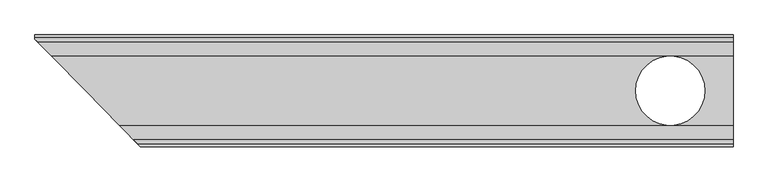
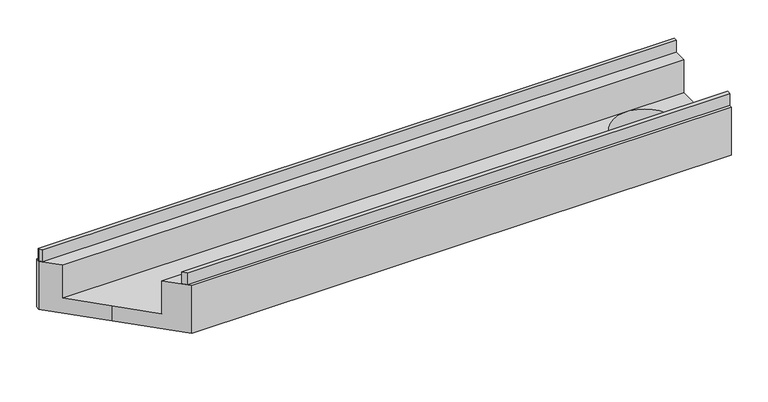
"""IFC4 building model written with IfcOpenShell, lengths in millimetres: sanitary terminal geometry, PF_ST_Slabdrain_H100SK_channels_USA_ACO : H100SK-10 Constant Depth Channel with Ductile iron edge rail."""

import ifcopenshell
import ifcopenshell.guid

model = None  # the IFC model being written
_history = None  # IfcOwnerHistory: only IFC2X3 demands one
_inside = {}  # id of a spatial element -> (the spatial element, [elements in it])
_under = {}  # id of a project, library or spatial element -> (it, [spatial elements below it])
_declared = {}  # id of a project -> (the project, [libraries it declares])
_typed = {}  # id of a type object -> (the type object, [elements of that type])
_made_of = {}  # id of a material, layer set ... -> (it, [elements and type objects made of it])


def new_model(schema):
    """Start an empty IFC model of exactly this schema.

    Asked for "IFC4X3", IfcOpenShell would pick the latest addendum, in which some entities
    have other attributes; the version numbers below select the first issue.
    IFC2X3 requires an IfcOwnerHistory on every rooted entity: one is made here for all.
    """
    global model, _history
    if schema == "IFC4X3":
        model = ifcopenshell.file(schema_version=(4, 3, 0, 0))
    else:
        model = ifcopenshell.file(schema=schema)
    _inside.clear()
    _under.clear()
    _declared.clear()
    _typed.clear()
    _made_of.clear()
    _history = None
    if model.schema == "IFC2X3":
        org = make("IfcOrganization", Name="unknown")
        user = make(
            "IfcPersonAndOrganization",
            ThePerson=make("IfcPerson", FamilyName="unknown"),
            TheOrganization=org,
        )
        app = make(
            "IfcApplication",
            ApplicationDeveloper=org,
            Version="unknown",
            ApplicationFullName="unknown",
            ApplicationIdentifier="unknown",
        )
        _history = make(
            "IfcOwnerHistory",
            OwningUser=user,
            OwningApplication=app,
            ChangeAction="ADDED",
            CreationDate=0,
        )
    return model


def make(cls, **values):
    """One entity of the class cls with the attributes given. An attribute that is None is left unset."""
    return model.create_entity(
        cls, **{name: value for name, value in values.items() if value is not None}
    )


def rooted(cls, **values):
    """An entity with a GlobalId (a new one), such as an element, a storey or a relation."""
    return make(cls, GlobalId=ifcopenshell.guid.new(), OwnerHistory=_history, **values)


def si_unit(unit_type, name, prefix=None):
    """IfcSIUnit, for example si_unit("LENGTHUNIT", "METRE", prefix="MILLI")."""
    return make("IfcSIUnit", UnitType=unit_type, Prefix=prefix, Name=name)


def assignment(units):
    """IfcUnitAssignment: the units of a project."""
    return None if units is None else make("IfcUnitAssignment", Units=units)


def point(xyz):
    """IfcCartesianPoint."""
    return None if xyz is None else make("IfcCartesianPoint", Coordinates=xyz)


def direction(xyz):
    """IfcDirection."""
    return None if xyz is None else make("IfcDirection", DirectionRatios=xyz)


def frame(location, z_axis=None, x_axis=None):
    """IfcAxis2Placement3D, a coordinate frame: its origin and axes. An axis left out is left unset."""
    return make(
        "IfcAxis2Placement3D",
        Location=point(location),
        Axis=direction(z_axis),
        RefDirection=direction(x_axis),
    )


def origin():
    """The frame at (0, 0, 0) with its axes left unset."""
    return frame((0.0, 0.0, 0.0))


def place(relative_to, where):
    """IfcLocalPlacement: puts the frame where relative to a parent placement (None: the world)."""
    return make(
        "IfcLocalPlacement", PlacementRelTo=relative_to, RelativePlacement=where
    )


def context(
    kind, dimensions, precision=None, world=None, true_north=None, identifier=None
):
    """IfcGeometricRepresentationContext, for example the 3D "Model" context."""
    return make(
        "IfcGeometricRepresentationContext",
        ContextIdentifier=identifier,
        ContextType=kind,
        CoordinateSpaceDimension=dimensions,
        Precision=precision,
        WorldCoordinateSystem=world,
        TrueNorth=true_north,
    )


def project(units=None, contexts=None):
    """IfcProject with its units and contexts."""
    return rooted(
        "IfcProject",
        Name="project",
        RepresentationContexts=contexts,
        UnitsInContext=assignment(units),
    )


def spatial(cls, under=None, at=None, **own):
    """A site, building, storey or space (cls), placed at a placement, below another one or the project."""
    s = rooted(cls, ObjectPlacement=at, **own)
    if under is not None:
        _under.setdefault(under.id(), (under, []))[1].append(s)
    return s


def polyline(points):
    """IfcPolyline through the points."""
    return make("IfcPolyline", Points=[point(p) for p in points])


def circle_curve(where, radius):
    """IfcCircle in the frame where."""
    return make("IfcCircle", Position=where, Radius=radius)


def outline(outer, holes=None, kind="AREA"):
    """IfcArbitraryClosedProfileDef: a profile drawn as a closed curve; with holes, ...WithVoids."""
    if holes is None:
        return make("IfcArbitraryClosedProfileDef", ProfileType=kind, OuterCurve=outer)
    return make(
        "IfcArbitraryProfileDefWithVoids",
        ProfileType=kind,
        OuterCurve=outer,
        InnerCurves=holes,
    )


def extrude(swept, where, along, depth):
    """IfcExtrudedAreaSolid: the profile swept, set in the frame where, extruded along a direction by depth."""
    return make(
        "IfcExtrudedAreaSolid",
        SweptArea=swept,
        Position=where,
        ExtrudedDirection=direction(along),
        Depth=depth,
    )


def shape(context_of_items, identifier, shape_type, items):
    """IfcShapeRepresentation: the items that make up one representation, for example the "Body"."""
    return make(
        "IfcShapeRepresentation",
        ContextOfItems=context_of_items,
        RepresentationIdentifier=identifier,
        RepresentationType=shape_type,
        Items=items,
    )


def source(mapping_origin, context_of_items, identifier, shape_type, items):
    """IfcRepresentationMap: a shape defined once, which mapped items show again and again."""
    return make(
        "IfcRepresentationMap",
        MappingOrigin=mapping_origin,
        MappedRepresentation=shape(context_of_items, identifier, shape_type, items),
    )


def transform(
    local_origin,
    x_axis=None,
    y_axis=None,
    z_axis=None,
    scale=None,
    scale2=None,
    scale3=None,
    uniform=True,
):
    """IfcCartesianTransformationOperator3D, or its non-uniform kind. x_axis, y_axis, z_axis: its Axis1, 2, 3."""
    if uniform:
        return make(
            "IfcCartesianTransformationOperator3D",
            Axis1=direction(x_axis),
            Axis2=direction(y_axis),
            LocalOrigin=point(local_origin),
            Scale=scale,
            Axis3=direction(z_axis),
        )
    return make(
        "IfcCartesianTransformationOperator3DnonUniform",
        Axis1=direction(x_axis),
        Axis2=direction(y_axis),
        LocalOrigin=point(local_origin),
        Scale=scale,
        Axis3=direction(z_axis),
        Scale2=scale2,
        Scale3=scale3,
    )


def mapped(mapping_source, mapping_target):
    """IfcMappedItem: shows the shape of a source again, moved by a transform."""
    return make(
        "IfcMappedItem", MappingSource=mapping_source, MappingTarget=mapping_target
    )


def made_of(thing, what):
    """Note that an element or type object is made of a material, layer set ...; save() writes the relation."""
    if what is not None:
        _made_of.setdefault(what.id(), (what, []))[1].append(thing)
    return thing


def element(
    cls,
    number,
    at=None,
    inside=None,
    cuts=None,
    type_object=None,
    material=None,
    context=None,
    identifier="Body",
    shape_type=None,
    held_by="IfcProductDefinitionShape",
    body=None,
    shapes=None,
    **own,
):
    """One element of the class cls, such as IfcWall. Its Tag is "e" and its number.

    at: its placement. inside: the storey or other place that contains it. cuts: it is an
    opening in that element (IfcRelVoidsElement). A single representation is given by context,
    identifier, shape_type and body (its items); several are given by shapes. held_by: the class
    of the entity that holds the representations. save() writes the other relations.
    """
    e = rooted(cls, Tag="e%d" % number, ObjectPlacement=at, **own)
    if body is not None:
        shapes = [shape(context, identifier, shape_type, body)]
    if shapes is not None:
        e.Representation = make(held_by, Representations=shapes)
    if inside is not None:
        _inside.setdefault(inside.id(), (inside, []))[1].append(e)
    if cuts is not None:
        rooted(
            "IfcRelVoidsElement", RelatingBuildingElement=cuts, RelatedOpeningElement=e
        )
    if type_object is not None:
        _typed.setdefault(type_object.id(), (type_object, []))[1].append(e)
    return made_of(e, material)


def aggregate(whole, parts):
    """IfcRelAggregates: a whole, such as a stair, and the parts it consists of."""
    return rooted("IfcRelAggregates", RelatingObject=whole, RelatedObjects=parts)


def save(model, path):
    """Write the relations noted so far, then the file.

    IfcRelAggregates (storeys below a building ...), IfcRelContainedInSpatialStructure (elements
    in a storey), IfcRelDefinesByType, IfcRelAssociatesMaterial and IfcRelDeclares: one each for
    every whole, place, type object, material and project.
    """
    for whole, parts in _under.values():
        aggregate(whole, parts)
    for where, things in _inside.values():
        rooted(
            "IfcRelContainedInSpatialStructure",
            RelatedElements=things,
            RelatingStructure=where,
        )
    for kind, things in _typed.values():
        rooted("IfcRelDefinesByType", RelatedObjects=things, RelatingType=kind)
    for what, things in _made_of.values():
        rooted("IfcRelAssociatesMaterial", RelatedObjects=things, RelatingMaterial=what)
    for by, libraries in _declared.values():
        rooted("IfcRelDeclares", RelatingContext=by, RelatedDefinitions=libraries)
    model.write(path)


def plane_surface(at):
    """IfcPlane: the flat surface through the origin of the frame at, square to its z axis."""
    return make("IfcPlane", Position=at)


def revolved_surface(curve, axis_point, axis_direction):
    """IfcSurfaceOfRevolution: the curve turned about the line through axis_point along axis_direction."""
    return make(
        "IfcSurfaceOfRevolution",
        SweptCurve=make("IfcArbitraryOpenProfileDef", ProfileType="CURVE", Curve=curve),
        AxisPosition=make("IfcAxis1Placement", Location=point(axis_point), Axis=direction(axis_direction)),
    )


def advanced_brep(points, edges, surfaces, faces):
    """IfcAdvancedBrep: a solid bounded by faces that lie on surfaces and meet in shared edges.

    An edge is (start, end): straight between two places in points (the first is 0);
    or (start, end, curve); or (start, end, curve, False) where it runs against its curve.
    A face is (place in surfaces, loops), or (place, loops, False) where it looks against
    its surface's normal. A loop lists edges by number (the first is 1), with a minus sign
    where the edge is run from its end to its start. The first loop is the outer one.
    """
    corners = [point(p) for p in points]
    vertices = [make("IfcVertexPoint", VertexGeometry=c) for c in corners]
    made = []
    for start, end, *more in edges:
        made.append(
            make(
                "IfcEdgeCurve",
                EdgeStart=vertices[start],
                EdgeEnd=vertices[end],
                EdgeGeometry=more[0] if more else make("IfcPolyline", Points=[corners[start], corners[end]]),
                SameSense=more[1] if len(more) > 1 else True,
            )
        )
    hull = []
    for where, loops, *sense in faces:
        bounds = []
        for j, loop in enumerate(loops):
            ring = [make("IfcOrientedEdge", EdgeElement=made[abs(k) - 1], Orientation=k > 0) for k in loop]
            bounds.append(
                make(
                    "IfcFaceOuterBound" if j == 0 else "IfcFaceBound",
                    Bound=make("IfcEdgeLoop", EdgeList=ring),
                    Orientation=True,
                )
            )
        hull.append(make("IfcAdvancedFace", Bounds=bounds, FaceSurface=surfaces[where], SameSense=sense[0] if sense else True))
    return make("IfcAdvancedBrep", Outer=make("IfcClosedShell", CfsFaces=hull))


def sanitary_terminal_edf25b3c(model_context):
    return source(origin(), model_context, "Body", "SolidModel", [
        advanced_brep(
        [(-605.6176554, 80.0, -20.0), (-605.6176554, 50.0, -20.0), (-605.6176554, 50.0, -75.0), (-605.6176554, -50.0, -75.0), (-605.6176554, -50.0, -20.0), (-605.6176554, -80.0, -20.0), (-605.6176554, -80.0, -100.0), (-605.6176554, 80.0, -100.0), (-1605.6176554, 80.0, -20.0), (-1605.6176554, 80.0, -100.0), (-1605.6176554, 73.8943556, -100.0), (-1605.6176554, 73.8943556, -20.0), (-1582.1358062, 49.9990523, -20.0), (-1483.8678487, -49.9991477, -20.0), (-1454.3860933, -80.0, -20.0), (-1454.3860933, -80.0, -100.0), (-1533.0018743, 0.0, -100.0), (-745.1176554, 0.0, -100.0), (-646.1176554, 0.0, -100.0), (-1582.1358062, 49.9990523, -75.0), (-1533.0018743, 0.0, -75.0), (-1483.8678487, -49.9991477, -75.0), (-646.1176554, 0.0, -75.0), (-745.1176554, 0.0, -75.0)],
        [
            (0, 1),
            (1, 2),
            (2, 3),
            (3, 4),
            (4, 5),
            (5, 6),
            (6, 7),
            (7, 0),
            (8, 9),
            (9, 10),
            (10, 11),
            (11, 8),
            (0, 8),
            (11, 12),
            (12, 1),
            (4, 13),
            (13, 14),
            (14, 5),
            (14, 15),
            (15, 6),
            (15, 16),
            (16, 10),
            (9, 7),
            (17, 18, circle_curve(frame((-695.6176554, 0.0, -100.0), z_axis=(0.0, 0.0, 1.0), x_axis=(1.0, 0.0, 0.0)), 49.5)),
            (18, 17, circle_curve(frame((-695.6176554, 0.0, -100.0), z_axis=(0.0, 0.0, 1.0), x_axis=(1.0, 0.0, 0.0)), 49.5)),
            (12, 19),
            (19, 2),
            (19, 20),
            (20, 21),
            (21, 3),
            (22, 23, circle_curve(frame((-695.6176554, 0.0, -75.0), z_axis=(0.0, 0.0, -1.0), x_axis=(1.0, 0.0, 0.0)), 49.5)),
            (23, 22, circle_curve(frame((-695.6176554, 0.0, -75.0), z_axis=(0.0, 0.0, -1.0), x_axis=(1.0, 0.0, 0.0)), 49.5)),
            (21, 13),
            (22, 18),
            (17, 23),
            (20, 16),
        ],
        [
            plane_surface(frame((-605.6176554, 0.0, -53.75), z_axis=(1.0, 0.0, 0.0), x_axis=(0.0, -1.0, 0.0))),
            plane_surface(frame((-1605.6176554, 0.0, -53.75), z_axis=(-1.0, 0.0, 0.0), x_axis=(0.0, -1.0, 0.0))),
            plane_surface(frame((-1605.6176554, 64.9995148, -20.0), z_axis=(0.0, 0.0, 1.0), x_axis=(0.0, -1.0, 0.0))),
            plane_surface(frame((-1605.6176554, -64.9995148, -20.0), z_axis=(0.0, 0.0, 1.0), x_axis=(0.0, -1.0, 0.0))),
            plane_surface(frame((-1605.6176554, -80.0, -60.0), z_axis=(0.0, -1.0, 0.0), x_axis=(0.0, 0.0, -1.0))),
            plane_surface(frame((-1605.6176554, 0.0, -100.0), z_axis=(0.0, 0.0, -1.0), x_axis=(0.0, 1.0, 0.0))),
            plane_surface(frame((-1605.6176554, 80.0, -60.0), z_axis=(0.0, 1.0, 0.0), x_axis=(0.0, 0.0, 1.0))),
            plane_surface(frame((-1605.6176554, 49.9990295, -47.5), z_axis=(9.704508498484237e-07, -0.9999999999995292, 0.0), x_axis=(0.0, 0.0, -1.0))),
            plane_surface(frame((-1605.6176554, 0.0, -75.0), z_axis=(0.0, 0.0, 1.0), x_axis=(0.0, -1.0, 0.0))),
            plane_surface(frame((-1605.6176554, -49.9990295, -47.5), z_axis=(9.704508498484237e-07, 0.9999999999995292, 0.0), x_axis=(0.0, 0.0, 1.0))),
            revolved_surface(polyline([(-646.1176554, 0.0, -100.0), (-646.1176554, 0.0, -75.0)]), (-695.6176554, 0.0, 0.0), (0.0, 0.0, -1.0)),
            plane_surface(frame((-1533.0018743, 0.0, 200.0), z_axis=(-0.7132504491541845, -0.700909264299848, 0.0), x_axis=(0.700909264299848, -0.7132504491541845, 0.0))),
            plane_surface(frame((-1533.0018743, 0.0, 200.0), z_axis=(-0.7132504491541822, -0.7009092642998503, 0.0), x_axis=(-0.7009092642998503, 0.7132504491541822, 0.0))),
        ],
        [
            (0, [[1, 2, 3, 4, 5, 6, 7, 8]]),
            (1, [[9, 10, 11, 12]]),
            (2, [[-1, 13, -12, 14, 15]]),
            (3, [[-5, 16, 17, 18]]),
            (4, [[-6, -18, 19, 20]]),
            (5, [[-7, -20, 21, 22, -10, 23], [24, 25]]),
            (6, [[-8, -23, -9, -13]]),
            (7, [[-2, -15, 26, 27]]),
            (8, [[-3, -27, 28, 29, 30], [31, 32]]),
            (9, [[-4, -30, 33, -16]]),
            (10, [[34, -24, 35, -31]]),
            (10, [[-34, -32, -35, -25]]),
            (11, [[36, -21, -19, -17, -33, -29]]),
            (12, [[-36, -28, -26, -14, -11, -22]]),
        ],
    ),
        extrude(outline(polyline([(-605.6176554, 76.0), (-605.6176554, 70.0), (-1601.7906828, 70.0), (-1605.6176554, 73.8943556), (-1605.6176554, 76.0), (-605.6176554, 76.0)])), frame((0.0, 0.0, -20.0), z_axis=(0.0, 0.0, 1.0), x_axis=(1.0, 0.0, 0.0)), (0.0, 0.0, 1.0), 20.0),
        extrude(outline(polyline([(-605.6176554, -70.0), (-605.6176554, -76.0), (-1458.3168823, -76.0), (-1464.2130659, -70.0), (-605.6176554, -70.0)])), frame((0.0, 0.0, -20.0), z_axis=(0.0, 0.0, 1.0), x_axis=(1.0, 0.0, 0.0)), (0.0, 0.0, 1.0), 20.0),
    ])


if __name__ == "__main__":
    model = new_model("IFC4")
    model_context = context("Model", 3, world=origin())
    ifc_project = project(units=[si_unit("LENGTHUNIT", "METRE", prefix="MILLI")], contexts=[model_context])
    site = spatial("IfcSite", under=ifc_project)
    building = spatial("IfcBuilding", under=site)
    placement = place(None, origin())
    sanitary_terminal_shape = sanitary_terminal_edf25b3c(model_context)
    element("IfcSanitaryTerminal", 1, ObjectType="PF_ST_Slabdrain_H100SK_channels_USA_ACO : H100SK-10 Constant Depth Channel with Ductile iron edge rail", at=placement, inside=building, context=model_context, shape_type="MappedRepresentation", body=[
        mapped(sanitary_terminal_shape, transform((0.0, 0.0, 0.0), x_axis=(1.0, 0.0, 0.0), y_axis=(0.0, 1.0, 0.0), z_axis=(0.0, 0.0, 1.0))),
    ])
    save(model, "model.ifc")
